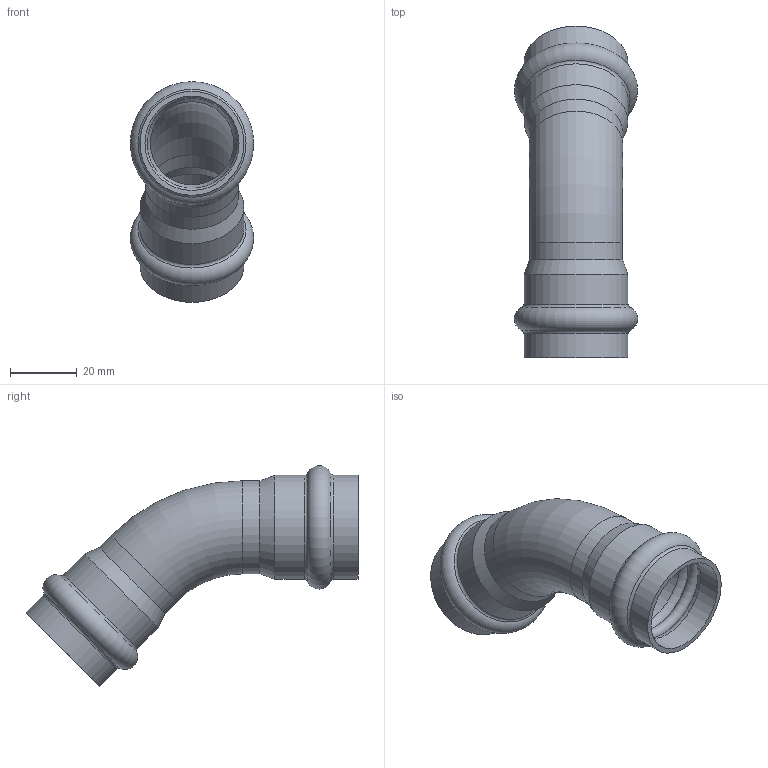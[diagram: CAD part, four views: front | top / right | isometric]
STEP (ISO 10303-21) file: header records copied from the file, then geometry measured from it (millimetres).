
FILE_DESCRIPTION(('STEP AP203'), '1');
FILE_NAME('VTi.959.I.002828', '', ('UNSPECIFIED'), ('UNSPECIFIED'), 'C3D Converter', 'C3D Toolkit', '');
FILE_SCHEMA(('CONFIG_CONTROL_DESIGN'));
Length unit declared in the file: millimetre
Products named in the file (1): ВР.302661.020.000 СБ
Bounding box: 37.1 x 99.82 x 66.37 mm (x, y, z)
Volume: 16304.2 mm3; surface area: 21073.5 mm2
Topology: 1 solids, 1 shells, 34 faces, 74 edges, 42 vertices
Faces by surface type: torus 16, cylinder 12, cone 4, plane 2
Full cylindrical faces by diameter (mm): 25.04 x2, 28 x2, 28.3 x4, 31.26 x4
Entity records: 808 total; most frequent: DIRECTION 154, CARTESIAN_POINT 119, ORIENTED_EDGE 84, AXIS2_PLACEMENT_3D 77, EDGE_LOOP 68, FACE_OUTER_BOUND 48, EDGE_CURVE 42, VERTEX_POINT 42
